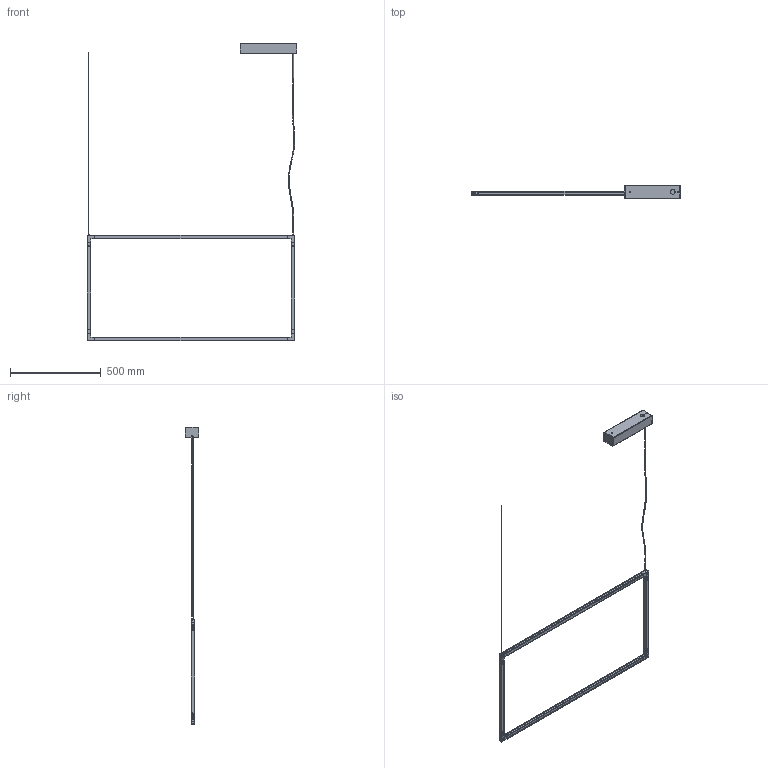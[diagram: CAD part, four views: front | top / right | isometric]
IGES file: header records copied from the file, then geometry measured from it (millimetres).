
Start section: SolidWorks IGES file using analytic representation for surfaces
Global section: file name: C:\Documents and Settings\tecnico01\Desktop\3d\3D_SPIGOLO_PENDANT\3D_SPIGOLO_PENDANT.IGS; native system: SolidWorks 2012; preprocessor: SolidWorks 2012; author: tecnico01; date: 140417.104620; units: millimetre
Bounding box: 1152.22 x 73 x 1638.16 mm (x, y, z)
Surface area: 779342.5 mm2 (no closed solid volume)
Topology: 0 solids, 0 shells, 1900 faces, 13628 edges, 13596 vertices
Faces by surface type: bspline 1391, revolution 509
